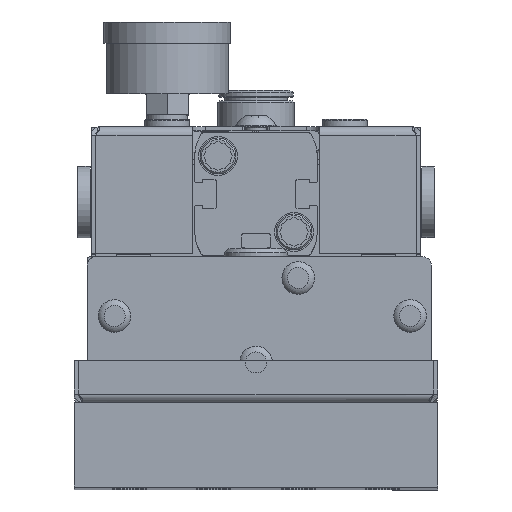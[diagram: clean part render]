
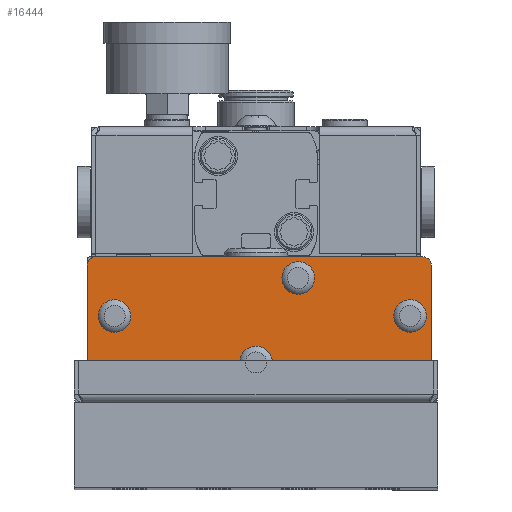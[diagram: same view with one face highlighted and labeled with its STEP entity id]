
A CAD part, top view. The second image highlights one B-rep face of the part: STEP entity #16444.
In plain terms, the highlighted planar face has unit normal (0, 0, 1).
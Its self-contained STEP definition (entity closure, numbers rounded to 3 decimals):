
#424 = CARTESIAN_POINT ( 'NONE',  ( -38., 13., 201. ) ) ;
#556 = VERTEX_POINT ( 'NONE', #17437 ) ;
#661 = PLANE ( 'NONE',  #5926 ) ;
#762 = ORIENTED_EDGE ( 'NONE', *, *, #30574, .T. ) ;
#834 = CIRCLE ( 'NONE', #31857, 3.857 ) ;
#898 = CARTESIAN_POINT ( 'NONE',  ( 41.5, 13., 201. ) ) ;
#1132 = LINE ( 'NONE', #898, #7648 ) ;
#1811 = CARTESIAN_POINT ( 'NONE',  ( -33.5, 1., 201. ) ) ;
#1825 = ORIENTED_EDGE ( 'NONE', *, *, #28313, .T. ) ;
#2252 = VECTOR ( 'NONE', #25506, 1000. ) ;
#2815 = CARTESIAN_POINT ( 'NONE',  ( 32.643, 1., 201. ) ) ;
#2961 = FACE_BOUND ( 'NONE', #31538, .T. ) ;
#3198 = DIRECTION ( 'NONE',  ( -1., 0., 0. ) ) ;
#3330 = EDGE_CURVE ( 'NONE', #14276, #18507, #25225, .T. ) ;
#3436 = CARTESIAN_POINT ( 'NONE',  ( -38., 15., 201. ) ) ;
#3577 = DIRECTION ( 'NONE',  ( 0., 0., 1. ) ) ;
#3690 = EDGE_CURVE ( 'NONE', #25786, #9372, #36060, .T. ) ;
#3729 = VECTOR ( 'NONE', #22949, 1000. ) ;
#3752 = EDGE_CURVE ( 'NONE', #10165, #10165, #26952, .T. ) ;
#4338 = CARTESIAN_POINT ( 'NONE',  ( 41.5, -13., 201. ) ) ;
#4580 = DIRECTION ( 'NONE',  ( -1., 0., 0. ) ) ;
#4675 = EDGE_LOOP ( 'NONE', ( #29026 ) ) ;
#4948 = EDGE_CURVE ( 'NONE', #7307, #25786, #7676, .T. ) ;
#5015 = EDGE_LOOP ( 'NONE', ( #6847 ) ) ;
#5016 = CARTESIAN_POINT ( 'NONE',  ( 6.143, 10., 201. ) ) ;
#5923 = DIRECTION ( 'NONE',  ( 0., 0., -1. ) ) ;
#5926 = AXIS2_PLACEMENT_3D ( 'NONE', #33981, #11808, #31305 ) ;
#5994 = CARTESIAN_POINT ( 'NONE',  ( -40., 13., 201. ) ) ;
#6238 = CARTESIAN_POINT ( 'NONE',  ( 39.5, 15., 201. ) ) ;
#6730 = ORIENTED_EDGE ( 'NONE', *, *, #32824, .F. ) ;
#6778 = DIRECTION ( 'NONE',  ( 0., 0., 1. ) ) ;
#6847 = ORIENTED_EDGE ( 'NONE', *, *, #16290, .T. ) ;
#7011 = VERTEX_POINT ( 'NONE', #2815 ) ;
#7307 = VERTEX_POINT ( 'NONE', #34200 ) ;
#7648 = VECTOR ( 'NONE', #23188, 1000. ) ;
#7676 = LINE ( 'NONE', #31180, #15069 ) ;
#8006 = EDGE_CURVE ( 'NONE', #22974, #7307, #13889, .T. ) ;
#8638 = ORIENTED_EDGE ( 'NONE', *, *, #8006, .T. ) ;
#8893 = DIRECTION ( 'NONE',  ( 1., 0., 0. ) ) ;
#9211 = CARTESIAN_POINT ( 'NONE',  ( -38., 15., 201. ) ) ;
#9268 = VERTEX_POINT ( 'NONE', #9211 ) ;
#9359 = CARTESIAN_POINT ( 'NONE',  ( 41.5, 13., 201. ) ) ;
#9372 = VERTEX_POINT ( 'NONE', #4338 ) ;
#9637 = EDGE_LOOP ( 'NONE', ( #14363, #1825, #8638, #22349, #35579, #23915, #23663, #15730 ) ) ;
#10165 = VERTEX_POINT ( 'NONE', #5016 ) ;
#10543 = DIRECTION ( 'NONE',  ( 0., 0., 1. ) ) ;
#10857 = DIRECTION ( 'NONE',  ( 0., 0., -1. ) ) ;
#11134 = AXIS2_PLACEMENT_3D ( 'NONE', #14065, #33543, #16860 ) ;
#11434 = AXIS2_PLACEMENT_3D ( 'NONE', #1811, #21292, #4580 ) ;
#11808 = DIRECTION ( 'NONE',  ( 0., 0., -1. ) ) ;
#12988 = FACE_BOUND ( 'NONE', #29509, .T. ) ;
#13889 = CIRCLE ( 'NONE', #23471, 2. ) ;
#14065 = CARTESIAN_POINT ( 'NONE',  ( 36.5, 1., 201. ) ) ;
#14276 = VERTEX_POINT ( 'NONE', #9359 ) ;
#14363 = ORIENTED_EDGE ( 'NONE', *, *, #18416, .T. ) ;
#15069 = VECTOR ( 'NONE', #8893, 1000. ) ;
#15730 = ORIENTED_EDGE ( 'NONE', *, *, #20824, .T. ) ;
#16290 = EDGE_CURVE ( 'NONE', #556, #556, #834, .T. ) ;
#16444 = ADVANCED_FACE ( 'NONE', ( #2961, #12988, #32602, #17782, #31722 ), #661, .F. ) ;
#16860 = DIRECTION ( 'NONE',  ( -1., 0., 0. ) ) ;
#17437 = CARTESIAN_POINT ( 'NONE',  ( -3.857, -10., 201. ) ) ;
#17782 = FACE_BOUND ( 'NONE', #5015, .T. ) ;
#18416 = EDGE_CURVE ( 'NONE', #9268, #26061, #35573, .T. ) ;
#18507 = VERTEX_POINT ( 'NONE', #6238 ) ;
#19264 = CARTESIAN_POINT ( 'NONE',  ( -37.357, 1., 201. ) ) ;
#19840 = CIRCLE ( 'NONE', #11134, 3.857 ) ;
#19898 = DIRECTION ( 'NONE',  ( 0., 0., 1. ) ) ;
#20133 = CARTESIAN_POINT ( 'NONE',  ( 39.5, -15., 201. ) ) ;
#20288 = CARTESIAN_POINT ( 'NONE',  ( 39.5, -13., 201. ) ) ;
#20824 = EDGE_CURVE ( 'NONE', #18507, #9268, #24252, .T. ) ;
#20880 = EDGE_CURVE ( 'NONE', #9372, #14276, #1132, .T. ) ;
#21292 = DIRECTION ( 'NONE',  ( 0., 0., -1. ) ) ;
#22243 = AXIS2_PLACEMENT_3D ( 'NONE', #22642, #5923, #25441 ) ;
#22349 = ORIENTED_EDGE ( 'NONE', *, *, #4948, .T. ) ;
#22642 = CARTESIAN_POINT ( 'NONE',  ( 10., 10., 201. ) ) ;
#22949 = DIRECTION ( 'NONE',  ( -1., 0., 0. ) ) ;
#22974 = VERTEX_POINT ( 'NONE', #32897 ) ;
#23098 = DIRECTION ( 'NONE',  ( 1., 0., 0. ) ) ;
#23188 = DIRECTION ( 'NONE',  ( 0., 1., 0. ) ) ;
#23471 = AXIS2_PLACEMENT_3D ( 'NONE', #23479, #6778, #26271 ) ;
#23479 = CARTESIAN_POINT ( 'NONE',  ( -38., -13., 201. ) ) ;
#23610 = LINE ( 'NONE', #5994, #2252 ) ;
#23663 = ORIENTED_EDGE ( 'NONE', *, *, #3330, .T. ) ;
#23875 = CIRCLE ( 'NONE', #11434, 3.857 ) ;
#23915 = ORIENTED_EDGE ( 'NONE', *, *, #20880, .T. ) ;
#24252 = LINE ( 'NONE', #3436, #3729 ) ;
#25060 = AXIS2_PLACEMENT_3D ( 'NONE', #424, #19898, #3198 ) ;
#25225 = CIRCLE ( 'NONE', #34583, 2. ) ;
#25441 = DIRECTION ( 'NONE',  ( -1., 0., 0. ) ) ;
#25506 = DIRECTION ( 'NONE',  ( 0., -1., 0. ) ) ;
#25786 = VERTEX_POINT ( 'NONE', #20133 ) ;
#26061 = VERTEX_POINT ( 'NONE', #29619 ) ;
#26193 = VERTEX_POINT ( 'NONE', #19264 ) ;
#26271 = DIRECTION ( 'NONE',  ( -1., 0., 0. ) ) ;
#26952 = CIRCLE ( 'NONE', #22243, 3.857 ) ;
#27259 = CARTESIAN_POINT ( 'NONE',  ( 39.5, 13., 201. ) ) ;
#27571 = CARTESIAN_POINT ( 'NONE',  ( 0., -10., 201. ) ) ;
#28313 = EDGE_CURVE ( 'NONE', #26061, #22974, #23610, .T. ) ;
#29026 = ORIENTED_EDGE ( 'NONE', *, *, #3752, .T. ) ;
#29509 = EDGE_LOOP ( 'NONE', ( #762 ) ) ;
#29619 = CARTESIAN_POINT ( 'NONE',  ( -40., 13., 201. ) ) ;
#29716 = AXIS2_PLACEMENT_3D ( 'NONE', #20288, #3577, #23098 ) ;
#30037 = DIRECTION ( 'NONE',  ( 1., 0., 0. ) ) ;
#30349 = DIRECTION ( 'NONE',  ( -1., 0., 0. ) ) ;
#30574 = EDGE_CURVE ( 'NONE', #26193, #26193, #23875, .T. ) ;
#31180 = CARTESIAN_POINT ( 'NONE',  ( -38., -15., 201. ) ) ;
#31305 = DIRECTION ( 'NONE',  ( -1., 0., 0. ) ) ;
#31538 = EDGE_LOOP ( 'NONE', ( #6730 ) ) ;
#31722 = FACE_OUTER_BOUND ( 'NONE', #9637, .T. ) ;
#31857 = AXIS2_PLACEMENT_3D ( 'NONE', #27571, #10857, #30349 ) ;
#32602 = FACE_BOUND ( 'NONE', #4675, .T. ) ;
#32824 = EDGE_CURVE ( 'NONE', #7011, #7011, #19840, .T. ) ;
#32897 = CARTESIAN_POINT ( 'NONE',  ( -40., -13., 201. ) ) ;
#33543 = DIRECTION ( 'NONE',  ( 0., 0., 1. ) ) ;
#33981 = CARTESIAN_POINT ( 'NONE',  ( -38., 13., 201. ) ) ;
#34200 = CARTESIAN_POINT ( 'NONE',  ( -38., -15., 201. ) ) ;
#34583 = AXIS2_PLACEMENT_3D ( 'NONE', #27259, #10543, #30037 ) ;
#35573 = CIRCLE ( 'NONE', #25060, 2. ) ;
#35579 = ORIENTED_EDGE ( 'NONE', *, *, #3690, .T. ) ;
#36060 = CIRCLE ( 'NONE', #29716, 2. ) ;
